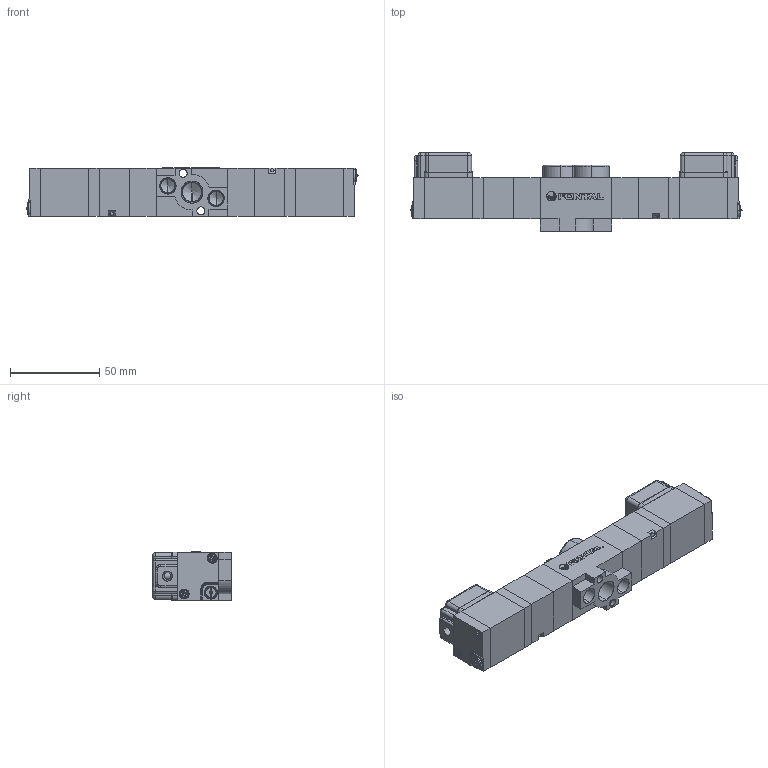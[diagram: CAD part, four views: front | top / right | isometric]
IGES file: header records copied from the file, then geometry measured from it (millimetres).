
Start section: SolidWorks IGES file using analytic representation for surfaces
Global section: file name: D:\Custom\3D繪製\PC\RC06\RCD3406-02-#G##.IGS,1; native system: 5HSolidWorks 2014; preprocessor: SolidWorks 2014; author: Chieh_Lu; date: 150803.214638; units: millimetre
Bounding box: 185.95 x 44 x 27.15 mm (x, y, z)
Surface area: 46196.9 mm2 (no closed solid volume)
Topology: 0 solids, 0 shells, 679 faces, 6406 edges, 6370 vertices
Faces by surface type: bspline 418, revolution 261
